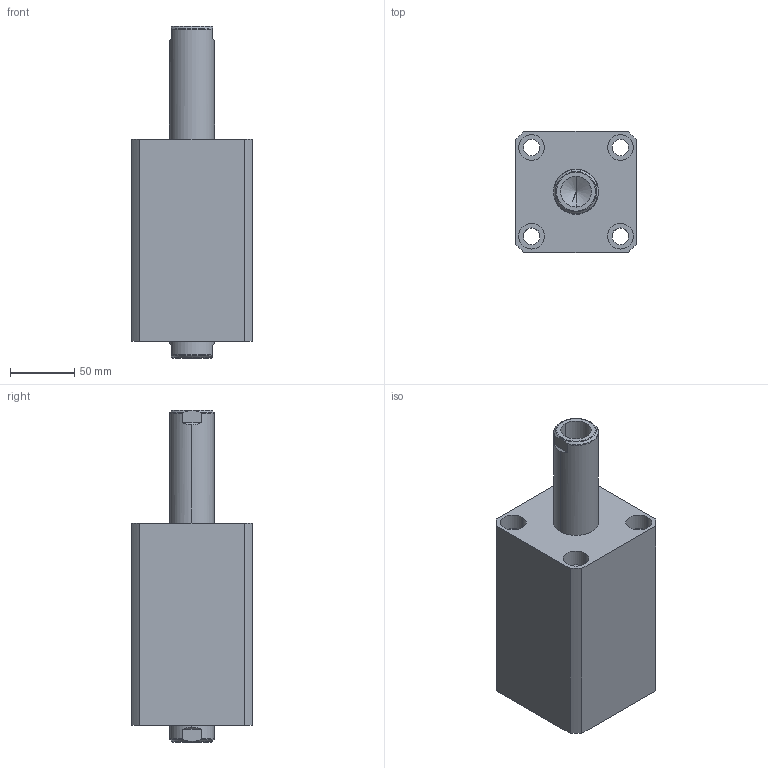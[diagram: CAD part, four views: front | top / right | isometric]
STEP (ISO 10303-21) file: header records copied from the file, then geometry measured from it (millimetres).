
FILE_DESCRIPTION (( 'STEP AP214' ), '1' );
FILE_NAME ('chtb-sw63x75n_asm.STEP', '2018-05-12T02:19:10', ( 'Windows' ), ( 'Microsoft' ), 'SwSTEP 2.0', 'SolidWorks 2015', '' );
FILE_SCHEMA (( 'AUTOMOTIVE_DESIGN' ));
Length unit declared in the file: millimetre
Products named in the file (4): chtb-sw63x75n_asm; CHTB-SW63X75NHSG; CHTB-SW63X75NBT; CHTB-63QG
Assembly tree (3 placements, depth 2):
  chtb-sw63x75n_asm
    CHTB-63QG
    CHTB-SW63X75NBT
    CHTB-SW63X75NHSG
Bounding box: 94 x 94 x 258 mm (x, y, z)
Volume: 1181712.4 mm3; surface area: 189703.8 mm2
Topology: 3 solids, 3 shells, 184 faces, 515 edges, 349 vertices
Faces by surface type: cylinder 106, plane 38, cone 16, bspline 12, torus 12
Entity records: 18385 total; most frequent: CARTESIAN_POINT 13775, ORIENTED_EDGE 1014, DIRECTION 814, EDGE_CURVE 507, VERTEX_POINT 349, AXIS2_PLACEMENT_3D 331, EDGE_LOOP 220, ADVANCED_FACE 184
